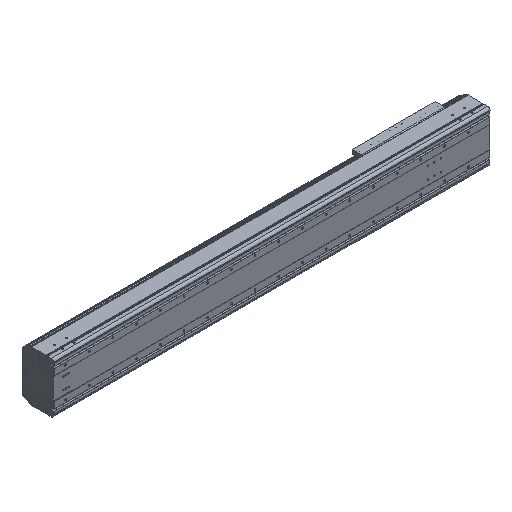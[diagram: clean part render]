
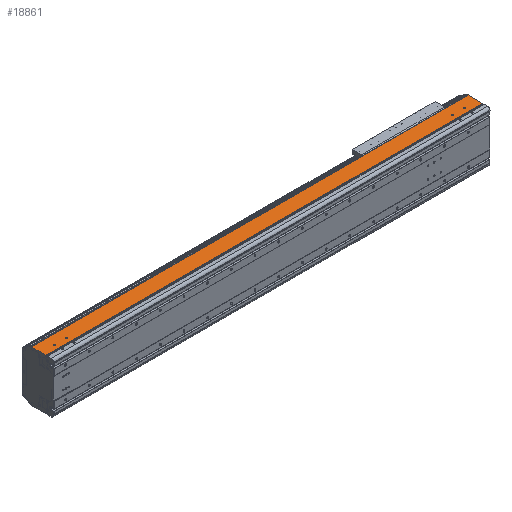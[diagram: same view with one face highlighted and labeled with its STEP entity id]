
A CAD part, isometric view. The second image highlights one B-rep face of the part: STEP entity #18861.
In plain terms, the highlighted planar face has unit normal (0, 0, 1).
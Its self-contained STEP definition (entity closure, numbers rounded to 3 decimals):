
#1618=DIRECTION('',(0.,-1.,0.));
#1619=VECTOR('',#1618,2.55);
#1620=CARTESIAN_POINT('',(0.,34.65,107.));
#1621=LINE('',#1620,#1619);
#2101=DIRECTION('',(1.,0.,0.));
#2102=VECTOR('',#2101,2.);
#2103=CARTESIAN_POINT('',(-1841.,34.65,107.));
#2104=LINE('',#2103,#2102);
#2105=CARTESIAN_POINT('',(-54.5,54.,107.));
#2106=DIRECTION('',(0.,0.,-1.));
#2107=DIRECTION('',(1.,0.,0.));
#2108=AXIS2_PLACEMENT_3D('',#2105,#2106,#2107);
#2110=CARTESIAN_POINT('',(-54.5,54.,107.));
#2111=DIRECTION('',(0.,0.,-1.));
#2112=DIRECTION('',(-1.,0.,0.));
#2113=AXIS2_PLACEMENT_3D('',#2110,#2111,#2112);
#2115=CARTESIAN_POINT('',(-104.5,54.,107.));
#2116=DIRECTION('',(0.,0.,-1.));
#2117=DIRECTION('',(1.,0.,0.));
#2118=AXIS2_PLACEMENT_3D('',#2115,#2116,#2117);
#2120=CARTESIAN_POINT('',(-104.5,54.,107.));
#2121=DIRECTION('',(0.,0.,-1.));
#2122=DIRECTION('',(-1.,0.,0.));
#2123=AXIS2_PLACEMENT_3D('',#2120,#2121,#2122);
#2125=CARTESIAN_POINT('',(-1784.5,54.,107.));
#2126=DIRECTION('',(0.,0.,-1.));
#2127=DIRECTION('',(1.,0.,0.));
#2128=AXIS2_PLACEMENT_3D('',#2125,#2126,#2127);
#2130=CARTESIAN_POINT('',(-1784.5,54.,107.));
#2131=DIRECTION('',(0.,0.,-1.));
#2132=DIRECTION('',(-1.,0.,0.));
#2133=AXIS2_PLACEMENT_3D('',#2130,#2131,#2132);
#2135=CARTESIAN_POINT('',(-1734.5,54.,107.));
#2136=DIRECTION('',(0.,0.,-1.));
#2137=DIRECTION('',(1.,0.,0.));
#2138=AXIS2_PLACEMENT_3D('',#2135,#2136,#2137);
#2140=CARTESIAN_POINT('',(-1734.5,54.,107.));
#2141=DIRECTION('',(0.,0.,-1.));
#2142=DIRECTION('',(-1.,0.,0.));
#2143=AXIS2_PLACEMENT_3D('',#2140,#2141,#2142);
#2145=DIRECTION('',(0.,-1.,0.));
#2146=VECTOR('',#2145,2.55);
#2147=CARTESIAN_POINT('',(-1839.,34.65,107.));
#2148=LINE('',#2147,#2146);
#2149=DIRECTION('',(0.,-1.,0.));
#2150=VECTOR('',#2149,58.85);
#2151=CARTESIAN_POINT('',(-1841.,93.5,107.));
#2152=LINE('',#2151,#2150);
#2153=DIRECTION('',(0.,1.,0.));
#2154=VECTOR('',#2153,58.85);
#2155=CARTESIAN_POINT('',(2.,34.65,107.));
#2156=LINE('',#2155,#2154);
#2157=DIRECTION('',(1.,0.,0.));
#2158=VECTOR('',#2157,1839.);
#2159=CARTESIAN_POINT('',(-1839.,32.1,107.));
#2160=LINE('',#2159,#2158);
#2265=DIRECTION('',(-1.,0.,0.));
#2266=VECTOR('',#2265,1843.);
#2267=CARTESIAN_POINT('',(2.,93.5,107.));
#2268=LINE('',#2267,#2266);
#11714=DIRECTION('',(1.,0.,0.));
#11715=VECTOR('',#11714,2.);
#11716=CARTESIAN_POINT('',(0.,34.65,107.));
#11717=LINE('',#11716,#11715);
#12964=CARTESIAN_POINT('',(-1841.,34.65,107.));
#12965=VERTEX_POINT('',#12964);
#12966=CARTESIAN_POINT('',(-1841.,93.5,107.));
#12967=VERTEX_POINT('',#12966);
#13196=CARTESIAN_POINT('',(-1839.,32.1,107.));
#13197=VERTEX_POINT('',#13196);
#13803=CARTESIAN_POINT('',(0.,32.1,107.));
#13804=VERTEX_POINT('',#13803);
#13805=CARTESIAN_POINT('',(-52.,54.,107.));
#13806=CARTESIAN_POINT('',(-57.,54.,107.));
#13807=VERTEX_POINT('',#13805);
#13808=VERTEX_POINT('',#13806);
#13809=CARTESIAN_POINT('',(-102.,54.,107.));
#13810=CARTESIAN_POINT('',(-107.,54.,107.));
#13811=VERTEX_POINT('',#13809);
#13812=VERTEX_POINT('',#13810);
#13813=CARTESIAN_POINT('',(-1782.,54.,107.));
#13814=CARTESIAN_POINT('',(-1787.,54.,107.));
#13815=VERTEX_POINT('',#13813);
#13816=VERTEX_POINT('',#13814);
#13817=CARTESIAN_POINT('',(-1732.,54.,107.));
#13818=CARTESIAN_POINT('',(-1737.,54.,107.));
#13819=VERTEX_POINT('',#13817);
#13820=VERTEX_POINT('',#13818);
#15051=CARTESIAN_POINT('',(2.,34.65,107.));
#15052=VERTEX_POINT('',#15051);
#15053=CARTESIAN_POINT('',(2.,93.5,107.));
#15054=VERTEX_POINT('',#15053);
#15397=CARTESIAN_POINT('',(0.,34.65,107.));
#15398=VERTEX_POINT('',#15397);
#15585=CARTESIAN_POINT('',(-1839.,34.65,107.));
#15586=VERTEX_POINT('',#15585);
#18819=CARTESIAN_POINT('',(-919.5,62.8,107.));
#18820=DIRECTION('',(0.,0.,1.));
#18821=DIRECTION('',(0.,-1.,0.));
#18822=AXIS2_PLACEMENT_3D('',#18819,#18820,#18821);
#18823=PLANE('',#18822);
#18824=ORIENTED_EDGE('',*,*,#17071,.F.);
#18825=ORIENTED_EDGE('',*,*,#18814,.F.);
#18826=ORIENTED_EDGE('',*,*,#17700,.F.);
#18828=ORIENTED_EDGE('',*,*,#18827,.F.);
#18829=ORIENTED_EDGE('',*,*,#16810,.F.);
#18831=ORIENTED_EDGE('',*,*,#18830,.F.);
#18832=ORIENTED_EDGE('',*,*,#18421,.T.);
#18834=ORIENTED_EDGE('',*,*,#18833,.F.);
#18835=EDGE_LOOP('',(#18824,#18825,#18826,#18828,#18829,#18831,#18832,#18834));
#18836=FACE_OUTER_BOUND('',#18835,.F.);
#18838=ORIENTED_EDGE('',*,*,#18837,.F.);
#18840=ORIENTED_EDGE('',*,*,#18839,.F.);
#18841=EDGE_LOOP('',(#18838,#18840));
#18842=FACE_BOUND('',#18841,.F.);
#18844=ORIENTED_EDGE('',*,*,#18843,.F.);
#18846=ORIENTED_EDGE('',*,*,#18845,.F.);
#18847=EDGE_LOOP('',(#18844,#18846));
#18848=FACE_BOUND('',#18847,.F.);
#18850=ORIENTED_EDGE('',*,*,#18849,.F.);
#18852=ORIENTED_EDGE('',*,*,#18851,.F.);
#18853=EDGE_LOOP('',(#18850,#18852));
#18854=FACE_BOUND('',#18853,.F.);
#18856=ORIENTED_EDGE('',*,*,#18855,.F.);
#18858=ORIENTED_EDGE('',*,*,#18857,.F.);
#18859=EDGE_LOOP('',(#18856,#18858));
#18860=FACE_BOUND('',#18859,.F.);
#18861=ADVANCED_FACE('',(#18836,#18842,#18848,#18854,#18860),#18823,.T.);
#2109=CIRCLE('',#2108,2.5);
#2114=CIRCLE('',#2113,2.5);
#2119=CIRCLE('',#2118,2.5);
#2124=CIRCLE('',#2123,2.5);
#2129=CIRCLE('',#2128,2.5);
#2134=CIRCLE('',#2133,2.5);
#2139=CIRCLE('',#2138,2.5);
#2144=CIRCLE('',#2143,2.5);
#16810=EDGE_CURVE('',#15052,#15054,#2156,.T.);
#17071=EDGE_CURVE('',#15586,#13197,#2148,.T.);
#17700=EDGE_CURVE('',#12967,#12965,#2152,.T.);
#18421=EDGE_CURVE('',#15398,#13804,#1621,.T.);
#18814=EDGE_CURVE('',#12965,#15586,#2104,.T.);
#18827=EDGE_CURVE('',#15054,#12967,#2268,.T.);
#18830=EDGE_CURVE('',#15398,#15052,#11717,.T.);
#18833=EDGE_CURVE('',#13197,#13804,#2160,.T.);
#18837=EDGE_CURVE('',#13811,#13812,#2119,.T.);
#18839=EDGE_CURVE('',#13812,#13811,#2124,.T.);
#18843=EDGE_CURVE('',#13815,#13816,#2129,.T.);
#18845=EDGE_CURVE('',#13816,#13815,#2134,.T.);
#18849=EDGE_CURVE('',#13819,#13820,#2139,.T.);
#18851=EDGE_CURVE('',#13820,#13819,#2144,.T.);
#18855=EDGE_CURVE('',#13807,#13808,#2109,.T.);
#18857=EDGE_CURVE('',#13808,#13807,#2114,.T.);
